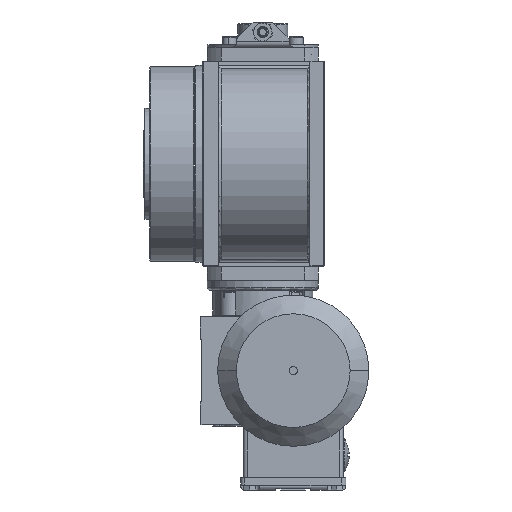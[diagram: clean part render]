
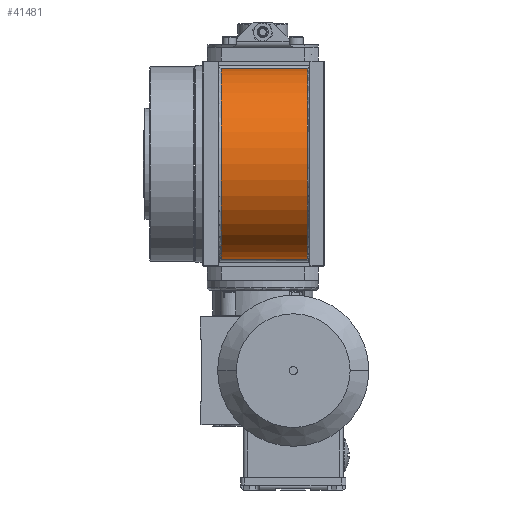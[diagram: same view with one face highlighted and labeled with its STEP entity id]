
A CAD part, left-side view. The second image highlights one B-rep face of the part: STEP entity #41481.
In plain terms, the highlighted cylindrical face has radius 69 mm (diameter 138 mm), a partial arc.
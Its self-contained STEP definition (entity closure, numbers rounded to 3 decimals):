
#4002 = VERTEX_POINT ( 'NONE', #25450 ) ;
#4675 = EDGE_CURVE ( 'NONE', #27906, #5433, #29287, .T. ) ;
#5433 = VERTEX_POINT ( 'NONE', #22203 ) ;
#7039 = DIRECTION ( 'NONE',  ( 0., 1., 0. ) ) ;
#7801 = EDGE_CURVE ( 'NONE', #5433, #21948, #58895, .T. ) ;
#12258 = VECTOR ( 'NONE', #33724, 1000. ) ;
#17611 = CARTESIAN_POINT ( 'NONE',  ( -42.511, -53.238, -28.281 ) ) ;
#18843 = CYLINDRICAL_SURFACE ( 'NONE', #22242, 69. ) ;
#20007 = FACE_OUTER_BOUND ( 'NONE', #52247, .T. ) ;
#21948 = VERTEX_POINT ( 'NONE', #57383 ) ;
#22203 = CARTESIAN_POINT ( 'NONE',  ( -42.511, -53.238, 109.5 ) ) ;
#22242 = AXIS2_PLACEMENT_3D ( 'NONE', #43747, #66683, #48995 ) ;
#25450 = CARTESIAN_POINT ( 'NONE',  ( -42.511, 8.762, -28.281 ) ) ;
#25632 = CARTESIAN_POINT ( 'NONE',  ( -38.624, -53.238, 40.609 ) ) ;
#27906 = VERTEX_POINT ( 'NONE', #17611 ) ;
#29287 = CIRCLE ( 'NONE', #71461, 69. ) ;
#29334 = CARTESIAN_POINT ( 'NONE',  ( -38.624, 8.762, 40.609 ) ) ;
#33724 = DIRECTION ( 'NONE',  ( 0., -1., 0. ) ) ;
#34073 = LINE ( 'NONE', #62333, #12258 ) ;
#34587 = ORIENTED_EDGE ( 'NONE', *, *, #49476, .T. ) ;
#41481 = ADVANCED_FACE ( 'NONE', ( #20007 ), #18843, .T. ) ;
#43747 = CARTESIAN_POINT ( 'NONE',  ( -38.624, 10.762, 40.609 ) ) ;
#44453 = DIRECTION ( 'NONE',  ( 0., 1., 0. ) ) ;
#48001 = EDGE_CURVE ( 'NONE', #4002, #27906, #34073, .T. ) ;
#48572 = DIRECTION ( 'NONE',  ( 0., 0., 1. ) ) ;
#48995 = DIRECTION ( 'NONE',  ( 0., 0., -1. ) ) ;
#49476 = EDGE_CURVE ( 'NONE', #21948, #4002, #60442, .T. ) ;
#51573 = VECTOR ( 'NONE', #7039, 1000. ) ;
#52247 = EDGE_LOOP ( 'NONE', ( #64025, #66473, #34587, #54118 ) ) ;
#52725 = DIRECTION ( 'NONE',  ( 0., -1., 0. ) ) ;
#54118 = ORIENTED_EDGE ( 'NONE', *, *, #48001, .T. ) ;
#55645 = AXIS2_PLACEMENT_3D ( 'NONE', #29334, #52725, #69698 ) ;
#57383 = CARTESIAN_POINT ( 'NONE',  ( -42.511, 8.762, 109.5 ) ) ;
#58895 = LINE ( 'NONE', #65306, #51573 ) ;
#60442 = CIRCLE ( 'NONE', #55645, 69. ) ;
#62333 = CARTESIAN_POINT ( 'NONE',  ( -42.511, 10.762, -28.281 ) ) ;
#64025 = ORIENTED_EDGE ( 'NONE', *, *, #4675, .T. ) ;
#65306 = CARTESIAN_POINT ( 'NONE',  ( -42.511, 10.762, 109.5 ) ) ;
#66473 = ORIENTED_EDGE ( 'NONE', *, *, #7801, .T. ) ;
#66683 = DIRECTION ( 'NONE',  ( 0., -1., 0. ) ) ;
#69698 = DIRECTION ( 'NONE',  ( 0., 0., 1. ) ) ;
#71461 = AXIS2_PLACEMENT_3D ( 'NONE', #25632, #44453, #48572 ) ;
